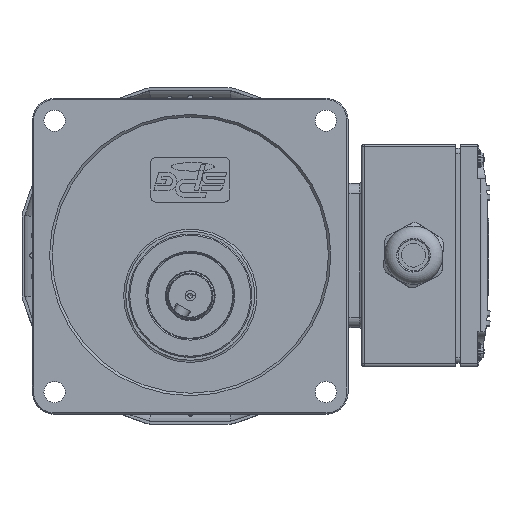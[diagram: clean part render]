
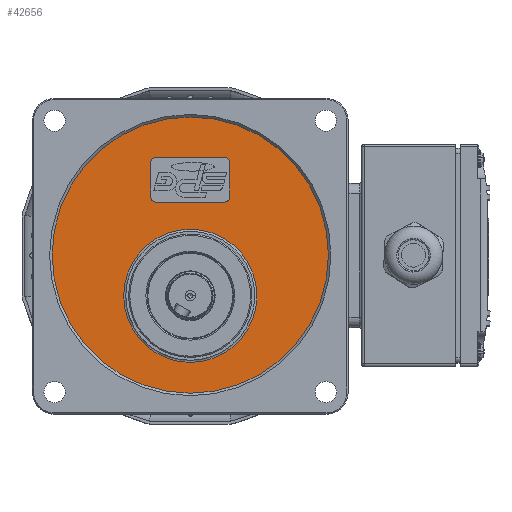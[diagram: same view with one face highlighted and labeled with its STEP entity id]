
A CAD part, top view. The second image highlights one B-rep face of the part: STEP entity #42656.
In plain terms, the highlighted planar face has unit normal (0, 0, 1).
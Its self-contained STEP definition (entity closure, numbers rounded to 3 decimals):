
#3749=FACE_BOUND('',#8918,.T.);
#3750=FACE_BOUND('',#8919,.T.);
#4566=PLANE('',#46667);
#6309=FACE_OUTER_BOUND('',#8917,.T.);
#8917=EDGE_LOOP('',(#35271));
#8918=EDGE_LOOP('',(#35272));
#8919=EDGE_LOOP('',(#35273,#35274,#35275,#35276,#35277,#35278,#35279,#35280));
#12001=LINE('',#71647,#14720);
#12002=LINE('',#71651,#14721);
#12003=LINE('',#71655,#14722);
#12004=LINE('',#71659,#14723);
#14720=VECTOR('',#56216,14.);
#14721=VECTOR('',#56219,28.);
#14722=VECTOR('',#56222,14.);
#14723=VECTOR('',#56225,28.);
#17055=CIRCLE('',#46666,56.);
#17056=CIRCLE('',#46668,27.);
#17057=CIRCLE('',#46669,2.);
#17058=CIRCLE('',#46670,2.);
#17059=CIRCLE('',#46671,2.);
#17060=CIRCLE('',#46672,2.);
#20538=VERTEX_POINT('',#71639);
#20539=VERTEX_POINT('',#71643);
#20540=VERTEX_POINT('',#71645);
#20541=VERTEX_POINT('',#71646);
#20542=VERTEX_POINT('',#71648);
#20543=VERTEX_POINT('',#71650);
#20544=VERTEX_POINT('',#71652);
#20545=VERTEX_POINT('',#71654);
#20546=VERTEX_POINT('',#71656);
#20547=VERTEX_POINT('',#71658);
#25706=EDGE_CURVE('',#20538,#20538,#17055,.T.);
#25708=EDGE_CURVE('',#20539,#20539,#17056,.T.);
#25709=EDGE_CURVE('',#20540,#20541,#12001,.T.);
#25710=EDGE_CURVE('',#20542,#20541,#17057,.T.);
#25711=EDGE_CURVE('',#20542,#20543,#12002,.T.);
#25712=EDGE_CURVE('',#20544,#20543,#17058,.T.);
#25713=EDGE_CURVE('',#20544,#20545,#12003,.T.);
#25714=EDGE_CURVE('',#20546,#20545,#17059,.T.);
#25715=EDGE_CURVE('',#20546,#20547,#12004,.T.);
#25716=EDGE_CURVE('',#20540,#20547,#17060,.T.);
#35271=ORIENTED_EDGE('',*,*,#25706,.F.);
#35272=ORIENTED_EDGE('',*,*,#25708,.F.);
#35273=ORIENTED_EDGE('',*,*,#25709,.T.);
#35274=ORIENTED_EDGE('',*,*,#25710,.F.);
#35275=ORIENTED_EDGE('',*,*,#25711,.T.);
#35276=ORIENTED_EDGE('',*,*,#25712,.F.);
#35277=ORIENTED_EDGE('',*,*,#25713,.T.);
#35278=ORIENTED_EDGE('',*,*,#25714,.F.);
#35279=ORIENTED_EDGE('',*,*,#25715,.T.);
#35280=ORIENTED_EDGE('',*,*,#25716,.F.);
#42656=ADVANCED_FACE('',(#6309,#3749,#3750),#4566,.F.);
#46666=AXIS2_PLACEMENT_3D('',#71640,#56209,#56210);
#46667=AXIS2_PLACEMENT_3D('',#71642,#56212,#56213);
#46668=AXIS2_PLACEMENT_3D('',#71644,#56214,#56215);
#46669=AXIS2_PLACEMENT_3D('',#71649,#56217,#56218);
#46670=AXIS2_PLACEMENT_3D('',#71653,#56220,#56221);
#46671=AXIS2_PLACEMENT_3D('',#71657,#56223,#56224);
#46672=AXIS2_PLACEMENT_3D('',#71660,#56226,#56227);
#56209=DIRECTION('center_axis',(0.,0.,
-1.));
#56210=DIRECTION('ref_axis',(-1.,0.,0.));
#56212=DIRECTION('center_axis',(0.,0.,
-1.));
#56213=DIRECTION('ref_axis',(1.,0.,0.));
#56214=DIRECTION('center_axis',(0.,0.,
1.));
#56215=DIRECTION('ref_axis',(1.,0.,0.));
#56216=DIRECTION('',(0.,-1.,0.));
#56217=DIRECTION('center_axis',(0.,0.,
1.));
#56218=DIRECTION('ref_axis',(0.707,-0.707,0.));
#56219=DIRECTION('',(-1.,0.,0.));
#56220=DIRECTION('center_axis',(0.,0.,
1.));
#56221=DIRECTION('ref_axis',(-0.707,-0.707,0.));
#56222=DIRECTION('',(0.,1.,0.));
#56223=DIRECTION('center_axis',(0.,0.,
1.));
#56224=DIRECTION('ref_axis',(-0.707,0.707,0.));
#56225=DIRECTION('',(1.,0.,0.));
#56226=DIRECTION('center_axis',(0.,0.,
1.));
#56227=DIRECTION('ref_axis',(0.707,0.707,0.));
#71639=CARTESIAN_POINT('',(5.05,15.023,249.547));
#71640=CARTESIAN_POINT('Origin',(-50.95,15.023,249.547));
#71642=CARTESIAN_POINT('Origin',(-50.95,15.023,249.547));
#71643=CARTESIAN_POINT('',(-77.95,-1.477,249.547));
#71644=CARTESIAN_POINT('Origin',(-50.95,-1.477,249.547));
#71645=CARTESIAN_POINT('',(-34.95,52.523,249.547));
#71646=CARTESIAN_POINT('',(-34.95,38.523,249.547));
#71647=CARTESIAN_POINT('',(-34.95,52.523,249.547));
#71648=CARTESIAN_POINT('',(-36.95,36.523,249.547));
#71649=CARTESIAN_POINT('Origin',(-36.95,38.523,249.547));
#71650=CARTESIAN_POINT('',(-64.95,36.523,249.547));
#71651=CARTESIAN_POINT('',(-36.95,36.523,249.547));
#71652=CARTESIAN_POINT('',(-66.95,38.523,249.547));
#71653=CARTESIAN_POINT('Origin',(-64.95,38.523,249.547));
#71654=CARTESIAN_POINT('',(-66.95,52.523,249.547));
#71655=CARTESIAN_POINT('',(-66.95,38.523,249.547));
#71656=CARTESIAN_POINT('',(-64.95,54.523,249.547));
#71657=CARTESIAN_POINT('Origin',(-64.95,52.523,249.547));
#71658=CARTESIAN_POINT('',(-36.95,54.523,249.547));
#71659=CARTESIAN_POINT('',(-64.95,54.523,249.547));
#71660=CARTESIAN_POINT('Origin',(-36.95,52.523,249.547));
